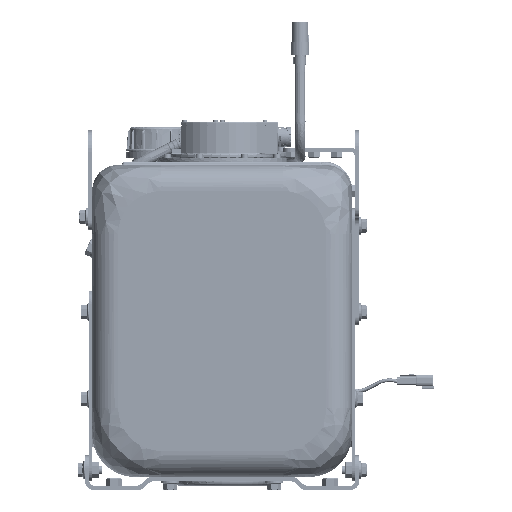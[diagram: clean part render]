
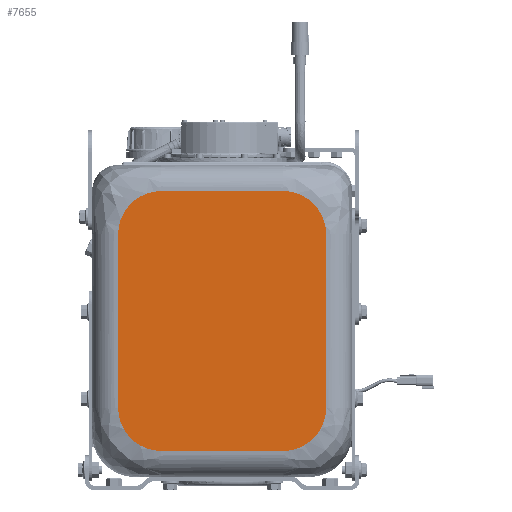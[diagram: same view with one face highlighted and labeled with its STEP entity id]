
A CAD part, left-side view. The second image highlights one B-rep face of the part: STEP entity #7655.
In plain terms, the highlighted planar face has unit normal (-1, 0, 0).
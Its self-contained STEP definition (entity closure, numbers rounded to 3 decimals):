
#3436 = VERTEX_POINT('',#3437);
#3437 = CARTESIAN_POINT('',(-1567.533,-2492.643,
    -79.683));
#3458 = EDGE_CURVE('',#3436,#3459,#3461,.T.);
#3459 = VERTEX_POINT('',#3460);
#3460 = CARTESIAN_POINT('',(-1567.533,-2442.643,
    -129.683));
#3461 = B_SPLINE_CURVE_WITH_KNOTS('',5,(#3462,#3463,#3464,#3465,#3466,
    #3467,#3468,#3469,#3470,#3471,#3472,#3473,#3474,#3475,#3476,#3477,
    #3478,#3479,#3480,#3481,#3482,#3483,#3484,#3485),.UNSPECIFIED.,.F.,
  .F.,(6,3,3,3,3,3,3,6),(0.,12.767,36.997,59.373,
    76.265,100.98,116.675,122.587),
  .UNSPECIFIED.);
#3462 = CARTESIAN_POINT('',(-1567.534,-2492.643,
    -79.683));
#3463 = CARTESIAN_POINT('',(-1567.532,-2492.643,
    -81.456));
#3464 = CARTESIAN_POINT('',(-1567.534,-2492.564,
    -83.208));
#3465 = CARTESIAN_POINT('',(-1567.533,-2492.411,
    -84.93));
#3466 = CARTESIAN_POINT('',(-1567.533,-2491.761,
    -89.854));
#3467 = CARTESIAN_POINT('',(-1567.533,-2490.541,
    -94.533));
#3468 = CARTESIAN_POINT('',(-1567.533,-2489.518,
    -97.486));
#3469 = CARTESIAN_POINT('',(-1567.533,-2487.161,
    -102.91));
#3470 = CARTESIAN_POINT('',(-1567.534,-2484.1,
    -107.84));
#3471 = CARTESIAN_POINT('',(-1567.533,-2482.475,
    -110.093));
#3472 = CARTESIAN_POINT('',(-1567.534,-2479.38,
    -113.817));
#3473 = CARTESIAN_POINT('',(-1567.534,-2475.867,
    -117.134));
#3474 = CARTESIAN_POINT('',(-1567.533,-2474.292,
    -118.475));
#3475 = CARTESIAN_POINT('',(-1567.534,-2470.212,
    -121.598));
#3476 = CARTESIAN_POINT('',(-1567.533,-2465.713,
    -124.203));
#3477 = CARTESIAN_POINT('',(-1567.533,-2462.907,
    -125.553));
#3478 = CARTESIAN_POINT('',(-1567.534,-2458.093,
    -127.421));
#3479 = CARTESIAN_POINT('',(-1567.533,-2452.952,
    -128.673));
#3480 = CARTESIAN_POINT('',(-1567.533,-2450.912,
    -129.061));
#3481 = CARTESIAN_POINT('',(-1567.534,-2448.039,
    -129.452));
#3482 = CARTESIAN_POINT('',(-1567.533,-2445.092,
    -129.632));
#3483 = CARTESIAN_POINT('',(-1567.533,-2444.28,
    -129.666));
#3484 = CARTESIAN_POINT('',(-1567.533,-2443.464,
    -129.683));
#3485 = CARTESIAN_POINT('',(-1567.534,-2442.643,
    -129.683));
#3826 = VERTEX_POINT('',#3827);
#3827 = CARTESIAN_POINT('',(-1567.533,-2492.643,
    120.318));
#3834 = EDGE_CURVE('',#3826,#3436,#3835,.T.);
#3835 = LINE('',#3836,#3837);
#3836 = CARTESIAN_POINT('',(-1567.533,-2492.643,
    20.317));
#3837 = VECTOR('',#3838,1.);
#3838 = DIRECTION('',(0.,0.,-1.));
#3849 = EDGE_CURVE('',#3850,#3826,#3852,.T.);
#3850 = VERTEX_POINT('',#3851);
#3851 = CARTESIAN_POINT('',(-1567.534,-2442.643,
    170.318));
#3852 = B_SPLINE_CURVE_WITH_KNOTS('',5,(#3853,#3854,#3855,#3856,#3857,
    #3858,#3859,#3860,#3861,#3862,#3863,#3864,#3865,#3866,#3867,#3868,
    #3869,#3870),.UNSPECIFIED.,.F.,.F.,(6,3,3,3,3,6),(0.,13.571,
    36.708,82.338,114.773,132.186),
  .UNSPECIFIED.);
#3853 = CARTESIAN_POINT('',(-1567.534,-2442.643,
    170.318));
#3854 = CARTESIAN_POINT('',(-1567.533,-2444.421,
    170.318));
#3855 = CARTESIAN_POINT('',(-1567.532,-2446.171,
    170.237));
#3856 = CARTESIAN_POINT('',(-1567.534,-2447.899,
    170.084));
#3857 = CARTESIAN_POINT('',(-1567.533,-2452.471,
    169.48));
#3858 = CARTESIAN_POINT('',(-1567.533,-2456.806,
    168.39));
#3859 = CARTESIAN_POINT('',(-1567.533,-2459.436,
    167.532));
#3860 = CARTESIAN_POINT('',(-1567.533,-2466.955,
    164.498));
#3861 = CARTESIAN_POINT('',(-1567.534,-2473.537,
    160.14));
#3862 = CARTESIAN_POINT('',(-1567.533,-2477.464,
    156.748));
#3863 = CARTESIAN_POINT('',(-1567.533,-2483.395,
    150.151));
#3864 = CARTESIAN_POINT('',(-1567.533,-2487.796,
    142.279));
#3865 = CARTESIAN_POINT('',(-1567.534,-2489.34,
    138.799));
#3866 = CARTESIAN_POINT('',(-1567.533,-2491.227,
    133.136));
#3867 = CARTESIAN_POINT('',(-1567.533,-2492.262,
    127.026));
#3868 = CARTESIAN_POINT('',(-1567.531,-2492.511,
    124.835));
#3869 = CARTESIAN_POINT('',(-1567.533,-2492.643,
    122.599));
#3870 = CARTESIAN_POINT('',(-1567.534,-2492.643,
    120.318));
#7655 = ADVANCED_FACE('',(#7656),#7701,.F.);
#7656 = FACE_BOUND('',#7657,.T.);
#7657 = EDGE_LOOP('',(#7658,#7659,#7667,#7676,#7684,#7693,#7699,#7700));
#7658 = ORIENTED_EDGE('',*,*,#3849,.F.);
#7659 = ORIENTED_EDGE('',*,*,#7660,.T.);
#7660 = EDGE_CURVE('',#3850,#7661,#7663,.T.);
#7661 = VERTEX_POINT('',#7662);
#7662 = CARTESIAN_POINT('',(-1567.533,-2302.643,
    170.317));
#7663 = LINE('',#7664,#7665);
#7664 = CARTESIAN_POINT('',(-1567.533,-2372.643,
    170.317));
#7665 = VECTOR('',#7666,1.);
#7666 = DIRECTION('',(0.,1.,0.));
#7667 = ORIENTED_EDGE('',*,*,#7668,.F.);
#7668 = EDGE_CURVE('',#7669,#7661,#7671,.T.);
#7669 = VERTEX_POINT('',#7670);
#7670 = CARTESIAN_POINT('',(-1567.533,-2252.643,
    120.317));
#7671 = CIRCLE('',#7672,50.);
#7672 = AXIS2_PLACEMENT_3D('',#7673,#7674,#7675);
#7673 = CARTESIAN_POINT('',(-1567.533,-2302.643,
    120.317));
#7674 = DIRECTION('',(1.,0.,0.));
#7675 = DIRECTION('',(0.,1.,0.));
#7676 = ORIENTED_EDGE('',*,*,#7677,.T.);
#7677 = EDGE_CURVE('',#7669,#7678,#7680,.T.);
#7678 = VERTEX_POINT('',#7679);
#7679 = CARTESIAN_POINT('',(-1567.533,-2252.643,
    -79.683));
#7680 = LINE('',#7681,#7682);
#7681 = CARTESIAN_POINT('',(-1567.533,-2252.643,
    20.317));
#7682 = VECTOR('',#7683,1.);
#7683 = DIRECTION('',(0.,0.,-1.));
#7684 = ORIENTED_EDGE('',*,*,#7685,.F.);
#7685 = EDGE_CURVE('',#7686,#7678,#7688,.T.);
#7686 = VERTEX_POINT('',#7687);
#7687 = CARTESIAN_POINT('',(-1567.533,-2302.643,
    -129.683));
#7688 = CIRCLE('',#7689,50.);
#7689 = AXIS2_PLACEMENT_3D('',#7690,#7691,#7692);
#7690 = CARTESIAN_POINT('',(-1567.533,-2302.643,
    -79.683));
#7691 = DIRECTION('',(1.,0.,0.));
#7692 = DIRECTION('',(0.,1.,0.));
#7693 = ORIENTED_EDGE('',*,*,#7694,.F.);
#7694 = EDGE_CURVE('',#3459,#7686,#7695,.T.);
#7695 = LINE('',#7696,#7697);
#7696 = CARTESIAN_POINT('',(-1567.533,-2372.643,
    -129.683));
#7697 = VECTOR('',#7698,1.);
#7698 = DIRECTION('',(0.,1.,0.));
#7699 = ORIENTED_EDGE('',*,*,#3458,.F.);
#7700 = ORIENTED_EDGE('',*,*,#3834,.F.);
#7701 = PLANE('',#7702);
#7702 = AXIS2_PLACEMENT_3D('',#7703,#7704,#7705);
#7703 = CARTESIAN_POINT('',(-1567.533,-2372.643,
    200.317));
#7704 = DIRECTION('',(1.,0.,0.));
#7705 = DIRECTION('',(0.,0.,-1.));
